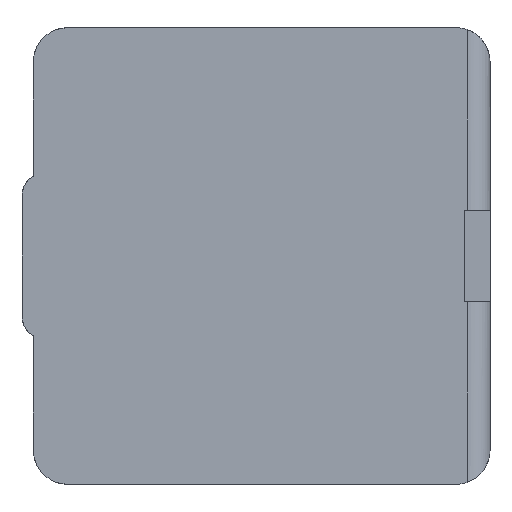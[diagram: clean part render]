
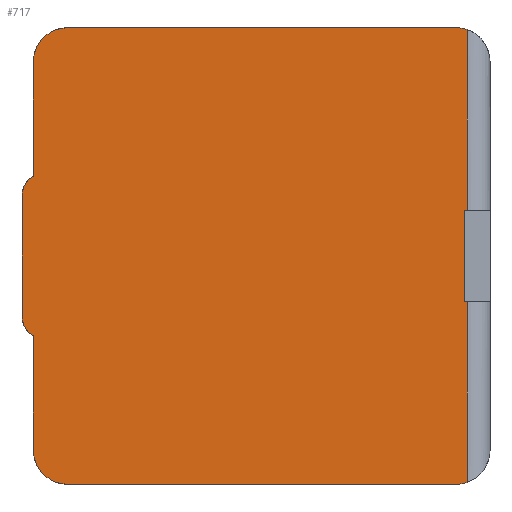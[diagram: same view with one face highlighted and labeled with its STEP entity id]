
A CAD part, front view. The second image highlights one B-rep face of the part: STEP entity #717.
In plain terms, the highlighted planar face has unit normal (0, -1, 0).
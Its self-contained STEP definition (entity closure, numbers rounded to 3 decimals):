
#22=PLANE('',#791);
#62=FACE_OUTER_BOUND('',#104,.T.);
#104=EDGE_LOOP('',(#538,#539,#540,#541,#542,#543,#544,#545,#546,#547,#548,
#549,#550,#551,#552,#553));
#142=LINE('',#1186,#202);
#143=LINE('',#1192,#203);
#147=LINE('',#1214,#207);
#155=LINE('',#1251,#215);
#156=LINE('',#1254,#216);
#157=LINE('',#1256,#217);
#158=LINE('',#1258,#218);
#159=LINE('',#1259,#219);
#160=LINE('',#1260,#220);
#161=LINE('',#1261,#221);
#202=VECTOR('',#877,10.);
#203=VECTOR('',#884,10.);
#207=VECTOR('',#896,10.);
#215=VECTOR('',#928,10.);
#216=VECTOR('',#931,10.);
#217=VECTOR('',#932,10.);
#218=VECTOR('',#933,10.);
#219=VECTOR('',#934,10.);
#220=VECTOR('',#935,10.);
#221=VECTOR('',#936,10.);
#250=CIRCLE('',#758,1.5);
#251=CIRCLE('',#760,1.5);
#252=CIRCLE('',#762,1.5);
#253=CIRCLE('',#764,1.5);
#261=CIRCLE('',#784,1.);
#262=CIRCLE('',#789,1.);
#286=VERTEX_POINT('',#1049);
#288=VERTEX_POINT('',#1061);
#293=VERTEX_POINT('',#1090);
#294=VERTEX_POINT('',#1092);
#296=VERTEX_POINT('',#1097);
#299=VERTEX_POINT('',#1121);
#302=VERTEX_POINT('',#1137);
#303=VERTEX_POINT('',#1139);
#314=VERTEX_POINT('',#1191);
#320=VERTEX_POINT('',#1230);
#321=VERTEX_POINT('',#1231);
#326=VERTEX_POINT('',#1245);
#327=VERTEX_POINT('',#1246);
#328=VERTEX_POINT('',#1253);
#329=VERTEX_POINT('',#1255);
#330=VERTEX_POINT('',#1257);
#355=EDGE_CURVE('',#288,#286,#250,.T.);
#361=EDGE_CURVE('',#294,#293,#251,.T.);
#367=EDGE_CURVE('',#296,#299,#252,.T.);
#370=EDGE_CURVE('',#303,#302,#253,.T.);
#383=EDGE_CURVE('',#299,#294,#142,.T.);
#386=EDGE_CURVE('',#296,#314,#143,.T.);
#393=EDGE_CURVE('',#302,#288,#147,.T.);
#398=EDGE_CURVE('',#320,#321,#261,.T.);
#405=EDGE_CURVE('',#326,#327,#262,.T.);
#408=EDGE_CURVE('',#321,#326,#155,.T.);
#409=EDGE_CURVE('',#328,#286,#156,.T.);
#410=EDGE_CURVE('',#328,#329,#157,.T.);
#411=EDGE_CURVE('',#329,#330,#158,.T.);
#412=EDGE_CURVE('',#330,#314,#159,.T.);
#413=EDGE_CURVE('',#293,#327,#160,.T.);
#414=EDGE_CURVE('',#320,#303,#161,.T.);
#538=ORIENTED_EDGE('',*,*,#355,.T.);
#539=ORIENTED_EDGE('',*,*,#409,.F.);
#540=ORIENTED_EDGE('',*,*,#410,.T.);
#541=ORIENTED_EDGE('',*,*,#411,.T.);
#542=ORIENTED_EDGE('',*,*,#412,.T.);
#543=ORIENTED_EDGE('',*,*,#386,.F.);
#544=ORIENTED_EDGE('',*,*,#367,.T.);
#545=ORIENTED_EDGE('',*,*,#383,.T.);
#546=ORIENTED_EDGE('',*,*,#361,.T.);
#547=ORIENTED_EDGE('',*,*,#413,.T.);
#548=ORIENTED_EDGE('',*,*,#405,.F.);
#549=ORIENTED_EDGE('',*,*,#408,.F.);
#550=ORIENTED_EDGE('',*,*,#398,.F.);
#551=ORIENTED_EDGE('',*,*,#414,.T.);
#552=ORIENTED_EDGE('',*,*,#370,.T.);
#553=ORIENTED_EDGE('',*,*,#393,.T.);
#717=ADVANCED_FACE('',(#62),#22,.F.);
#758=AXIS2_PLACEMENT_3D('',#1062,#837,#838);
#760=AXIS2_PLACEMENT_3D('',#1093,#844,#845);
#762=AXIS2_PLACEMENT_3D('',#1123,#851,#852);
#764=AXIS2_PLACEMENT_3D('',#1140,#856,#857);
#784=AXIS2_PLACEMENT_3D('',#1232,#908,#909);
#789=AXIS2_PLACEMENT_3D('',#1247,#922,#923);
#791=AXIS2_PLACEMENT_3D('',#1252,#929,#930);
#837=DIRECTION('center_axis',(0.,-1.,0.));
#838=DIRECTION('ref_axis',(0.,0.,-1.));
#844=DIRECTION('center_axis',(0.,-1.,0.));
#845=DIRECTION('ref_axis',(0.,0.,1.));
#851=DIRECTION('center_axis',(0.,-1.,0.));
#852=DIRECTION('ref_axis',(1.,0.,0.));
#856=DIRECTION('center_axis',(0.,-1.,0.));
#857=DIRECTION('ref_axis',(-1.,0.,0.));
#877=DIRECTION('',(-1.,0.,0.));
#884=DIRECTION('',(0.,0.,-1.));
#896=DIRECTION('',(1.,0.,0.));
#908=DIRECTION('center_axis',(0.,1.,0.));
#909=DIRECTION('ref_axis',(-0.5,0.,-0.866));
#922=DIRECTION('center_axis',(0.,1.,0.));
#923=DIRECTION('ref_axis',(-0.5,0.,0.866));
#928=DIRECTION('',(0.,0.,1.));
#929=DIRECTION('center_axis',(0.,1.,0.));
#930=DIRECTION('ref_axis',(1.,0.,0.));
#931=DIRECTION('',(0.,0.,-1.));
#932=DIRECTION('',(-1.,0.,0.));
#933=DIRECTION('',(0.,0.,1.));
#934=DIRECTION('',(1.,0.,0.));
#935=DIRECTION('',(0.,0.,-1.));
#936=DIRECTION('',(0.,0.,-1.));
#1049=CARTESIAN_POINT('',(-1.,0.,-19.914));
#1061=CARTESIAN_POINT('',(-1.5,0.,-20.));
#1062=CARTESIAN_POINT('Origin',(-1.5,0.,-18.5));
#1090=CARTESIAN_POINT('',(-20.,0.,-1.5));
#1092=CARTESIAN_POINT('',(-18.5,0.,0.));
#1093=CARTESIAN_POINT('Origin',(-18.5,0.,-1.5));
#1097=CARTESIAN_POINT('',(-1.,0.,-0.086));
#1121=CARTESIAN_POINT('',(-1.5,0.,0.));
#1123=CARTESIAN_POINT('Origin',(-1.5,0.,-1.5));
#1137=CARTESIAN_POINT('',(-18.5,0.,-20.));
#1139=CARTESIAN_POINT('',(-20.,0.,-18.5));
#1140=CARTESIAN_POINT('Origin',(-18.5,0.,-18.5));
#1186=CARTESIAN_POINT('',(0.,0.,0.));
#1191=CARTESIAN_POINT('',(-1.,0.,-8.));
#1192=CARTESIAN_POINT('',(-1.,0.,-20.));
#1214=CARTESIAN_POINT('',(-20.,0.,-20.));
#1230=CARTESIAN_POINT('',(-20.,0.,-13.5));
#1231=CARTESIAN_POINT('',(-20.5,0.,-12.634));
#1232=CARTESIAN_POINT('Origin',(-19.5,0.,-12.634));
#1245=CARTESIAN_POINT('',(-20.5,0.,-7.366));
#1246=CARTESIAN_POINT('',(-20.,0.,-6.5));
#1247=CARTESIAN_POINT('Origin',(-19.5,0.,-7.366));
#1251=CARTESIAN_POINT('',(-20.5,0.,-6.5));
#1252=CARTESIAN_POINT('Origin',(-10.,0.,-10.));
#1253=CARTESIAN_POINT('',(-1.,0.,-12.));
#1254=CARTESIAN_POINT('',(-1.,0.,-20.));
#1255=CARTESIAN_POINT('',(-1.1,0.,-12.));
#1256=CARTESIAN_POINT('',(-5.,0.,-12.));
#1257=CARTESIAN_POINT('',(-1.1,0.,-8.));
#1258=CARTESIAN_POINT('',(-1.1,0.,-10.));
#1259=CARTESIAN_POINT('',(-5.,0.,-8.));
#1260=CARTESIAN_POINT('',(-20.,0.,0.));
#1261=CARTESIAN_POINT('',(-20.,0.,0.));
